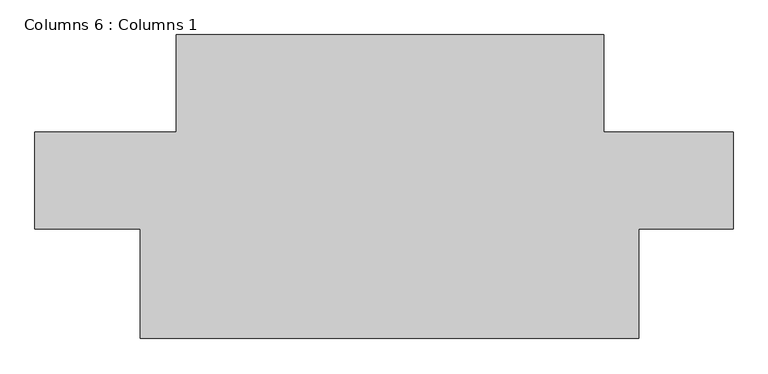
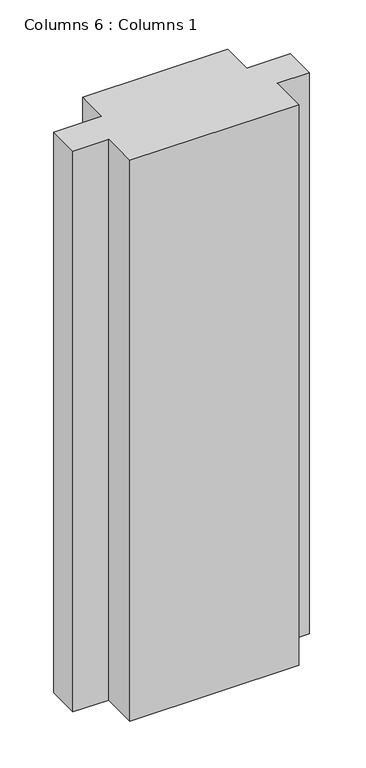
"""IFC4 building model written with IfcOpenShell, lengths in millimetres: column geometry, Columns 6 : Columns 1."""

from ifc_helpers import new_model, si_unit, origin, origin_with_axes, place, context, project, spatial, polyline, outline, extrude, source, transform, mapped, element, save


def columns_6_columns_1_e790766a(model_context):
    return source(origin(), model_context, "Body", "SweptSolid", [
        extrude(outline(polyline([(-20736.8729771, 87264.7092432), (-20956.6085473, 87264.7092432), (-20956.6085473, 87467.9092432), (-20661.1928355, 87467.9092432), (-20661.1928355, 87671.1092432), (-19767.7478355, 87671.1092432), (-19767.7478355, 87467.9092432), (-19497.9300192, 87467.9092432), (-19497.9300192, 87264.7092432), (-19695.4729771, 87264.7092432), (-19695.4729771, 87036.1092432), (-20736.8729771, 87036.1092432), (-20736.8729771, 87264.7092432)])), origin_with_axes(), (0.0, 0.0, 1.0), 3657.6),
    ])


if __name__ == "__main__":
    model = new_model("IFC4")
    model_context = context("Model", 3, world=origin())
    ifc_project = project(units=[si_unit("LENGTHUNIT", "METRE", prefix="MILLI")], contexts=[model_context])
    site = spatial("IfcSite", under=ifc_project)
    building = spatial("IfcBuilding", under=site)
    placement = place(None, origin())
    columns_6_columns_1_shape = columns_6_columns_1_e790766a(model_context)
    element("IfcColumn", 1, ObjectType="Columns 6 : Columns 1", at=placement, inside=building, context=model_context, shape_type="MappedRepresentation", body=[
        mapped(columns_6_columns_1_shape, transform((0.0, 0.0, 0.0), x_axis=(1.0, 0.0, 0.0), y_axis=(0.0, 1.0, 0.0), z_axis=(0.0, 0.0, 1.0))),
    ])
    save(model, "model.ifc")
